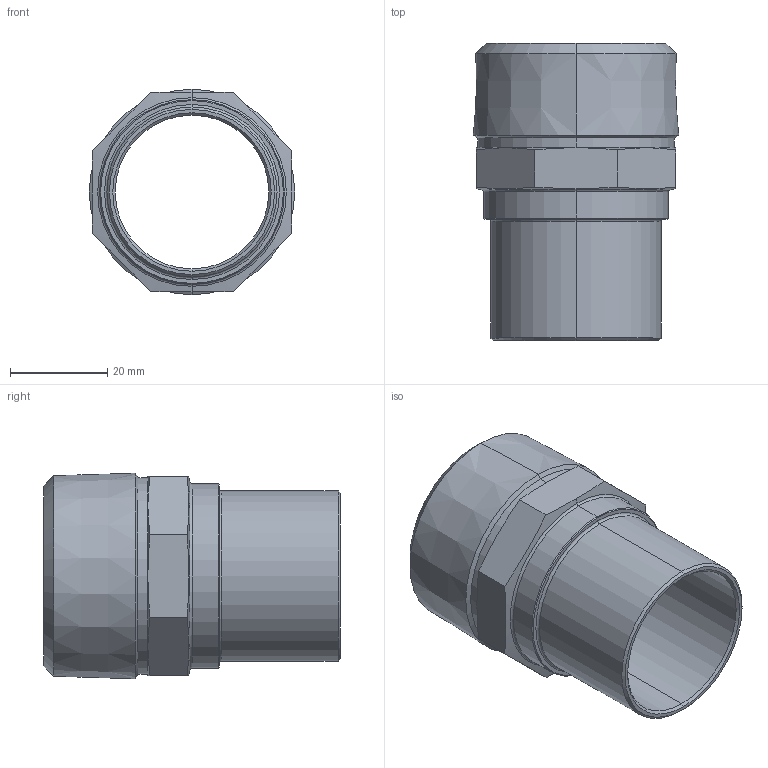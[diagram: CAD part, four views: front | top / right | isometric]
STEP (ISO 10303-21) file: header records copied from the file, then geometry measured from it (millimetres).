
FILE_DESCRIPTION (( 'STEP AP203' ), '1' );
FILE_NAME ('SP4280G Ø35 1 1-4.STEP', '2017-04-26T09:09:15', ( '' ), ( '' ), 'SwSTEP 2.0', 'SolidWorks 2016', '' );
FILE_SCHEMA (( 'CONFIG_CONTROL_DESIGN' ));
Length unit declared in the file: millimetre
Products named in the file (1): SP4280G Ø35 1 1-4
Bounding box: 42.29 x 61.1 x 42.29 mm (x, y, z)
Volume: 23249.5 mm3; surface area: 14483.9 mm2
Topology: 1 solids, 1 shells, 45 faces, 100 edges, 58 vertices
Faces by surface type: cone 20, plane 11, cylinder 10, torus 4
Entity records: 1361 total; most frequent: CARTESIAN_POINT 296, DIRECTION 214, ORIENTED_EDGE 200, EDGE_CURVE 100, AXIS2_PLACEMENT_3D 88, VERTEX_POINT 58, EDGE_LOOP 48, FACE_OUTER_BOUND 45
